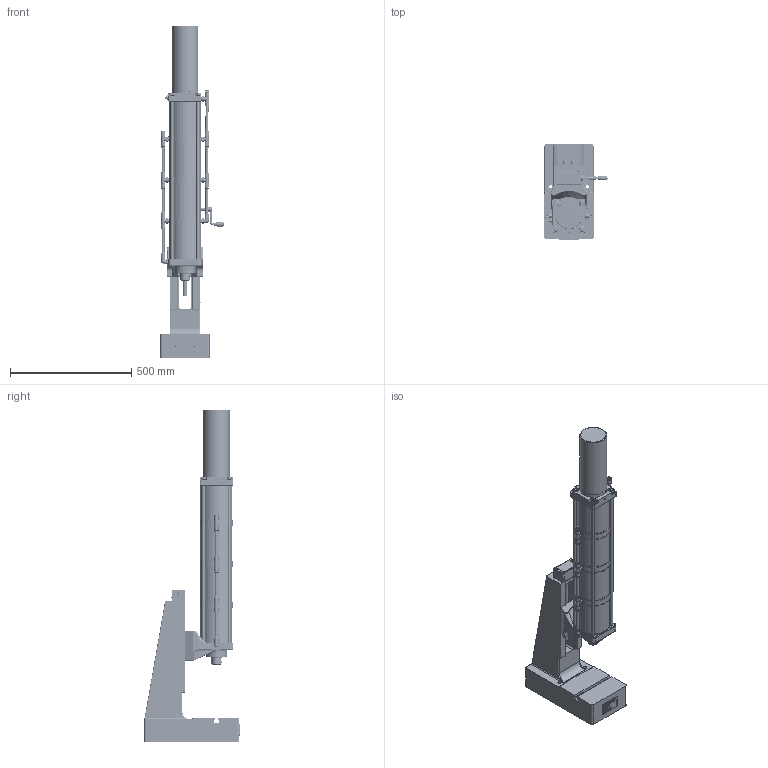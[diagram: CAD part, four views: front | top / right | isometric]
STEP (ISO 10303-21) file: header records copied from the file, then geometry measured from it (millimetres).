
FILE_DESCRIPTION(/* description */ ('Bausatz Ständer T4N HV-OST'),/* implementation_level */ '2;1');
FILE_NAME(/* name */ 'B:\02_CAD_oeffentlich\CAD_3D_oeffentlich_step\Druckluftpresse\DRP_2800_100_130.stp',/* time_stamp */ '2017-08-28T07:17:53+02:00',/* author */ ('Finsterle'),/* organization */ (''),/* preprocessor_version */ 'ST-DEVELOPER v16.1',/* originating_system */ 'Autodesk Inventor 2016',/* authorisation */ '');
FILE_SCHEMA (('AUTOMOTIVE_DESIGN { 1 0 10303 214 3 1 1 }'));
Products named in the file (5): ENG-000753-1_V; ENG-001161_V; HBF-000760; ENG-000755; HBF-001078_V
Assembly tree (5 placements, depth 2):
  HBF-001078_V
    ENG-000753-1_V
    ENG-001161_V
    HBF-000760
    ENG-000755  x2
Bounding box: 259.79 x 393.8 x 1367.06 mm (x, y, z)
Volume: 14539660.8 mm3; surface area: 2216247.9 mm2
Topology: 6 solids, 32 shells, 7974 faces, 21265 edges, 13861 vertices
Faces by surface type: plane 4723, bspline 2118, cylinder 624, cone 265, torus 169, sphere 75
Full cylindrical faces by diameter (mm): 1 x1, 2 x1, 2.4 x3, 2.459 x2, 3 x6, 3.242 x7, 3.5 x2, 3.65 x4, 4 x5, 4.134 x1, 4.2 x2, 4.5 x4, 4.917 x6, 5 x3, 6.2 x4, 6.5 x2, 6.647 x1, 8 x5, 8.4 x1, 8.5 x2, 9 x6, 10 x3, 10.02 x1, 10.5 x4, 11.5 x10, 11.8 x2, 12 x30, 12.5 x4, 13 x24, 13.5 x4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
Entity records: 267236 total; most frequent: CARTESIAN_POINT 78474, ORIENTED_EDGE 40752, DIRECTION 29337, EDGE_CURVE 20347, LINE 13997, VECTOR 13997, VERTEX_POINT 13680, EDGE_LOOP 9319
